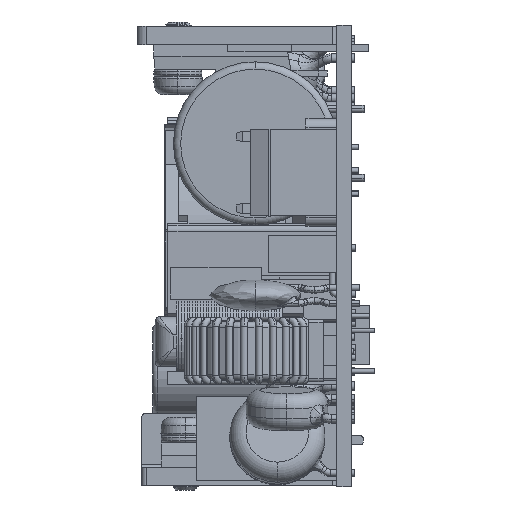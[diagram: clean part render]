
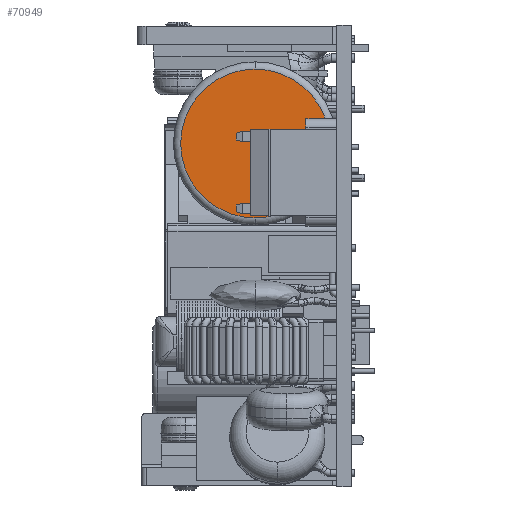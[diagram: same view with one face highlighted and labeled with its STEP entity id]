
A CAD part, left-side view. The second image highlights one B-rep face of the part: STEP entity #70949.
In plain terms, the highlighted planar face has unit normal (-1, 0, 0) as drawn and (0, 0, -1) by its records, which use the part's own axes.
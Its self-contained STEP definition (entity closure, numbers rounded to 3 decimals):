
#2415 = ORIENTED_EDGE ( 'NONE', *, *, #19485, .F. ) ;
#2432 = EDGE_LOOP ( 'NONE', ( #14371, #2415 ) ) ;
#4707 = DIRECTION ( 'NONE',  ( 0., 0., 1. ) ) ;
#10038 = CARTESIAN_POINT ( 'NONE',  ( 0., 0., -26.5 ) ) ;
#12398 = DIRECTION ( 'NONE',  ( 0., 0., 1. ) ) ;
#14371 = ORIENTED_EDGE ( 'NONE', *, *, #38285, .F. ) ;
#15736 = CARTESIAN_POINT ( 'NONE',  ( 8.2, 0., -26.5 ) ) ;
#15833 = CIRCLE ( 'NONE', #64035, 8.2 ) ;
#17747 = FACE_OUTER_BOUND ( 'NONE', #2432, .T. ) ;
#19485 = EDGE_CURVE ( 'NONE', #70370, #19924, #15833, .T. ) ;
#19924 = VERTEX_POINT ( 'NONE', #15736 ) ;
#20955 = AXIS2_PLACEMENT_3D ( 'NONE', #34872, #28342, #65092 ) ;
#28342 = DIRECTION ( 'NONE',  ( 0., 0., 1. ) ) ;
#34872 = CARTESIAN_POINT ( 'NONE',  ( 0., 0., -26.5 ) ) ;
#35389 = DIRECTION ( 'NONE',  ( 1., 0., 0. ) ) ;
#38285 = EDGE_CURVE ( 'NONE', #19924, #70370, #58736, .T. ) ;
#42649 = PLANE ( 'NONE',  #69118 ) ;
#58736 = CIRCLE ( 'NONE', #20955, 8.2 ) ;
#62205 = CARTESIAN_POINT ( 'NONE',  ( -8.2, 0., -26.5 ) ) ;
#64035 = AXIS2_PLACEMENT_3D ( 'NONE', #10038, #4707, #35389 ) ;
#65092 = DIRECTION ( 'NONE',  ( 1., 0., 0. ) ) ;
#69118 = AXIS2_PLACEMENT_3D ( 'NONE', #62205, #12398, #74038 ) ;
#70370 = VERTEX_POINT ( 'NONE', #78200 ) ;
#70949 = ADVANCED_FACE ( 'NONE', ( #17747 ), #42649, .F. ) ;
#74038 = DIRECTION ( 'NONE',  ( 1., 0., 0. ) ) ;
#78200 = CARTESIAN_POINT ( 'NONE',  ( -8.2, 0., -26.5 ) ) ;
